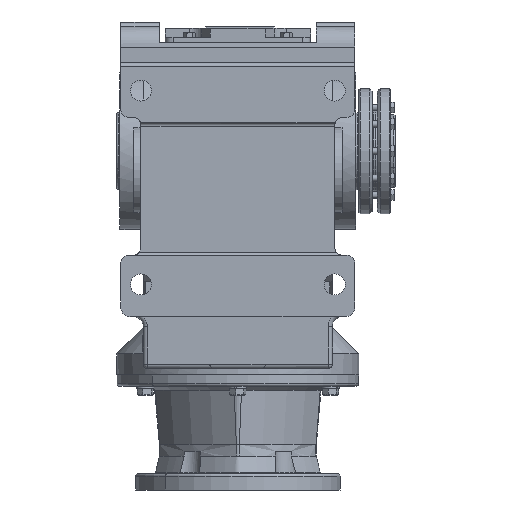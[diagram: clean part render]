
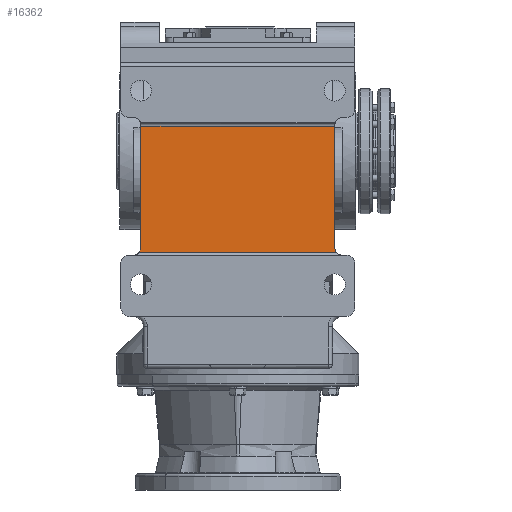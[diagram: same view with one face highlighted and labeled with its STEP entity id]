
A CAD part, front view. The second image highlights one B-rep face of the part: STEP entity #16362.
In plain terms, the highlighted planar face has unit normal (0, -1, 0).
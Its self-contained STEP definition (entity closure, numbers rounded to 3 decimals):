
#7354 = VECTOR ( 'NONE', #34282, 1000. ) ;
#7362 = LINE ( 'NONE', #34280, #7354 ) ;
#7526 = LINE ( 'NONE', #34481, #7548 ) ;
#7544 = LINE ( 'NONE', #34476, #7546 ) ;
#7545 = CIRCLE ( 'NONE', #28275, 10. ) ;
#7546 = VECTOR ( 'NONE', #34477, 1000. ) ;
#7548 = VECTOR ( 'NONE', #34485, 1000. ) ;
#7549 = CIRCLE ( 'NONE', #28276, 10. ) ;
#7550 = LINE ( 'NONE', #34486, #7552 ) ;
#7552 = VECTOR ( 'NONE', #34487, 1000. ) ;
#8880 = AXIS2_PLACEMENT_3D ( 'NONE', #21173, #21361, #21337 ) ;
#12134 = FACE_OUTER_BOUND ( 'NONE', #59157, .T. ) ;
#16362 = ADVANCED_FACE ( 'NONE', ( #12134 ), #21473, .T. ) ;
#21173 = CARTESIAN_POINT ( 'NONE',  ( -145., -260., 31. ) ) ;
#21337 = DIRECTION ( 'NONE',  ( 0., 0., -1. ) ) ;
#21361 = DIRECTION ( 'NONE',  ( 0., -1., 0. ) ) ;
#21473 = PLANE ( 'NONE',  #8880 ) ;
#28275 = AXIS2_PLACEMENT_3D ( 'NONE', #34488, #34489, #34490 ) ;
#28276 = AXIS2_PLACEMENT_3D ( 'NONE', #34492, #34493, #34494 ) ;
#34280 = CARTESIAN_POINT ( 'NONE',  ( -145., -260., -125. ) ) ;
#34282 = DIRECTION ( 'NONE',  ( 1., 0., 0. ) ) ;
#34476 = CARTESIAN_POINT ( 'NONE',  ( -145., -260., 31. ) ) ;
#34477 = DIRECTION ( 'NONE',  ( 1., 0., 0. ) ) ;
#34481 = CARTESIAN_POINT ( 'NONE',  ( -120., -260., -125. ) ) ;
#34485 = DIRECTION ( 'NONE',  ( 0., 0., 1. ) ) ;
#34486 = CARTESIAN_POINT ( 'NONE',  ( 120., -260., 31. ) ) ;
#34487 = DIRECTION ( 'NONE',  ( 0., 0., -1. ) ) ;
#34488 = CARTESIAN_POINT ( 'NONE',  ( -130., -260., -119. ) ) ;
#34489 = DIRECTION ( 'NONE',  ( 0., 1., 0. ) ) ;
#34490 = DIRECTION ( 'NONE',  ( 0., 0., -1. ) ) ;
#34492 = CARTESIAN_POINT ( 'NONE',  ( 130., -260., -119. ) ) ;
#34493 = DIRECTION ( 'NONE',  ( 0., 1., 0. ) ) ;
#34494 = DIRECTION ( 'NONE',  ( 0., 0., -1. ) ) ;
#39011 = EDGE_CURVE ( 'NONE', #50217, #50202, #7362, .T. ) ;
#39167 = EDGE_CURVE ( 'NONE', #50105, #50098, #7544, .T. ) ;
#39170 = EDGE_CURVE ( 'NONE', #50112, #50105, #7526, .T. ) ;
#39172 = EDGE_CURVE ( 'NONE', #50112, #50217, #7545, .T. ) ;
#39173 = EDGE_CURVE ( 'NONE', #50202, #50084, #7549, .T. ) ;
#39176 = EDGE_CURVE ( 'NONE', #50098, #50084, #7550, .T. ) ;
#44919 = ORIENTED_EDGE ( 'NONE', *, *, #39167, .F. ) ;
#44920 = ORIENTED_EDGE ( 'NONE', *, *, #39170, .F. ) ;
#44921 = ORIENTED_EDGE ( 'NONE', *, *, #39172, .T. ) ;
#44922 = ORIENTED_EDGE ( 'NONE', *, *, #39011, .T. ) ;
#44923 = ORIENTED_EDGE ( 'NONE', *, *, #39173, .T. ) ;
#44924 = ORIENTED_EDGE ( 'NONE', *, *, #39176, .F. ) ;
#48475 = CARTESIAN_POINT ( 'NONE',  ( 120., -260., -119. ) ) ;
#48507 = CARTESIAN_POINT ( 'NONE',  ( -120., -260., 31. ) ) ;
#48510 = CARTESIAN_POINT ( 'NONE',  ( 120., -260., 31. ) ) ;
#48520 = CARTESIAN_POINT ( 'NONE',  ( -120., -260., -119. ) ) ;
#48594 = CARTESIAN_POINT ( 'NONE',  ( 122., -260., -125. ) ) ;
#48605 = CARTESIAN_POINT ( 'NONE',  ( -122., -260., -125. ) ) ;
#50084 = VERTEX_POINT ( 'NONE', #48475 ) ;
#50098 = VERTEX_POINT ( 'NONE', #48510 ) ;
#50105 = VERTEX_POINT ( 'NONE', #48507 ) ;
#50112 = VERTEX_POINT ( 'NONE', #48520 ) ;
#50202 = VERTEX_POINT ( 'NONE', #48594 ) ;
#50217 = VERTEX_POINT ( 'NONE', #48605 ) ;
#59157 = EDGE_LOOP ( 'NONE', ( #44919, #44920, #44921, #44922, #44923, #44924 ) ) ;
